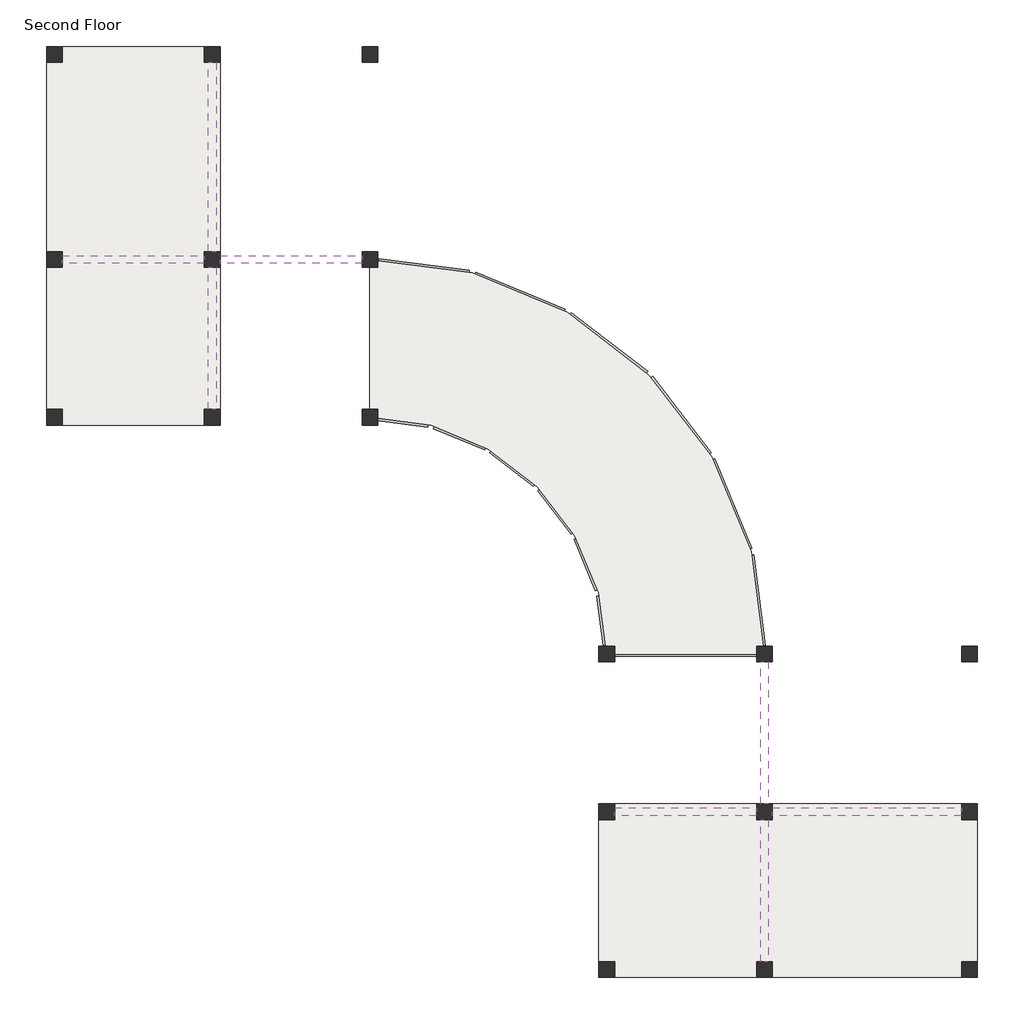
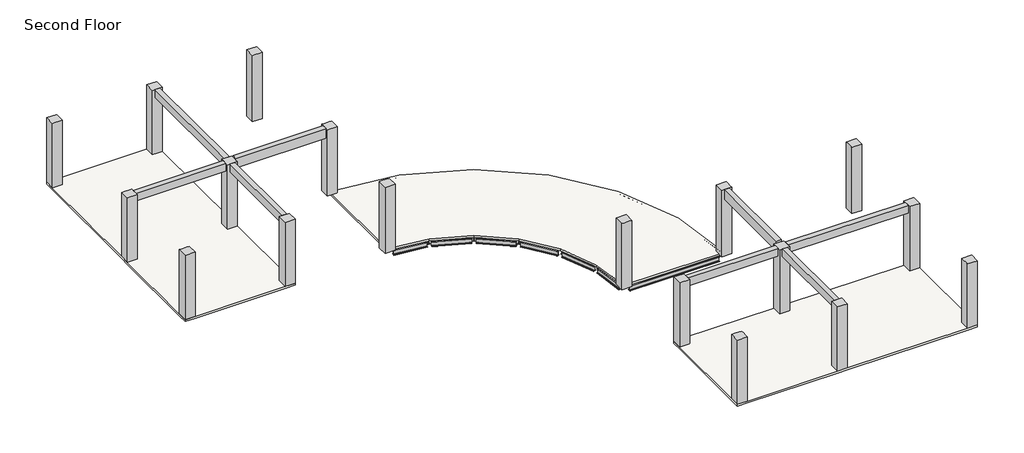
# One storey: 26 beams, 18 columns, 3 slabs.
"""IFC4 building model written with IfcOpenShell, lengths in millimetres."""

from ifc_helpers import new_model, si_unit, frame, origin, place, context, project, spatial, polyline, outline, extrude, faceted_brep, transform, mapped, element, save
from components import w_wide_flange_w12x26_1e533bcd, w_wide_flange_w12x26_3565986b, w_wide_flange_w12x26_dd29c176, w_wide_flange_w12x26_81ca8151, w_wide_flange_w12x26_da9b0925, w_wide_flange_w12x26_462c3e25, w_wide_flange_w12x26_ec7660bb, w_wide_flange_w12x26_07b850c1, w_wide_flange_w12x26_dceb5f91

model = new_model("IFC4")

# Units and contexts
model_context = context("Model", 3, world=origin())
ifc_project = project(units=[si_unit("LENGTHUNIT", "METRE", prefix="MILLI")], contexts=[model_context])

# Site, building, storey
site = spatial("IfcSite", under=ifc_project)
building = spatial("IfcBuilding", under=site)
storey = spatial("IfcBuildingStorey", under=building, Name="Second Floor", Elevation=3048.0)

# Beams
placement = place(None, origin())
element("IfcBeam", 1, ObjectType="Concrete-Rectangular Beam : 12 x 24", at=placement, inside=storey, context=model_context, shape_type="SweptSolid", body=[
    extrude(outline(polyline([(-34903.4783408, 12122.2963551), (-34598.6783408, 12122.2963551), (-34598.6783408, 4807.0963551), (-34903.4783408, 4807.0963551), (-34903.4783408, 12122.2963551)])), frame((0.0, 0.0, 6705.6), z_axis=(0.0, 0.0, 1.0), x_axis=(1.0, 0.0, 0.0)), (0.0, 0.0, 1.0), 488.95),
])
element("IfcBeam", 2, ObjectType="Concrete-Rectangular Beam : 12 x 24", at=placement, inside=storey, context=model_context, shape_type="SweptSolid", body=[
    extrude(outline(polyline([(-34903.4783408, 4197.4963551), (-34598.6783408, 4197.4963551), (-34598.6783408, -1288.9036449), (-34903.4783408, -1288.9036449), (-34903.4783408, 4197.4963551)])), frame((0.0, 0.0, 6705.6), z_axis=(0.0, 0.0, 1.0), x_axis=(1.0, 0.0, 0.0)), (0.0, 0.0, 1.0), 488.95),
])
element("IfcBeam", 3, ObjectType="Concrete-Rectangular Beam : 12 x 24", at=placement, inside=storey, context=model_context, shape_type="SweptSolid", body=[
    extrude(outline(polyline([(-35055.8783408, 4654.6963551), (-35055.8783408, 4349.8963551), (-40542.2783408, 4349.8963551), (-40542.2783408, 4654.6963551), (-35055.8783408, 4654.6963551)])), frame((0.0, 0.0, 6705.6), z_axis=(0.0, 0.0, 1.0), x_axis=(1.0, 0.0, 0.0)), (0.0, 0.0, 1.0), 488.95),
])
element("IfcBeam", 4, ObjectType="Concrete-Rectangular Beam : 12 x 24", at=placement, inside=storey, context=model_context, shape_type="SweptSolid", body=[
    extrude(outline(polyline([(-34446.2783408, 4349.8963551), (-34446.2783408, 4654.6963551), (-28959.8783408, 4654.6963551), (-28959.8783408, 4349.8963551), (-34446.2783408, 4349.8963551)])), frame((0.0, 0.0, 6705.6), z_axis=(0.0, 0.0, 1.0), x_axis=(1.0, 0.0, 0.0)), (0.0, 0.0, 1.0), 609.6),
])
element("IfcBeam", 5, ObjectType="Concrete-Rectangular Beam : 12 x 24", at=placement, inside=storey, context=model_context, shape_type="SweptSolid", body=[
    extrude(outline(polyline([(-5795.0783408, -16681.3036449), (-5795.0783408, -16986.1036449), (-13110.2783408, -16986.1036449), (-13110.2783408, -16681.3036449), (-5795.0783408, -16681.3036449)])), frame((0.0, 0.0, 6705.6), z_axis=(0.0, 0.0, 1.0), x_axis=(1.0, 0.0, 0.0)), (0.0, 0.0, 1.0), 488.95),
])
element("IfcBeam", 6, ObjectType="Concrete-Rectangular Beam : 12 x 24", at=placement, inside=storey, context=model_context, shape_type="SweptSolid", body=[
    extrude(outline(polyline([(-13719.8783408, -16681.3036449), (-13719.8783408, -16986.1036449), (-19206.2783408, -16986.1036449), (-19206.2783408, -16681.3036449), (-13719.8783408, -16681.3036449)])), frame((0.0, 0.0, 6705.6), z_axis=(0.0, 0.0, 1.0), x_axis=(1.0, 0.0, 0.0)), (0.0, 0.0, 1.0), 488.95),
])
element("IfcBeam", 7, ObjectType="Concrete-Rectangular Beam : 12 x 24", at=placement, inside=storey, context=model_context, shape_type="SweptSolid", body=[
    extrude(outline(polyline([(-13567.4783408, -17138.5036449), (-13262.6783408, -17138.5036449), (-13262.6783408, -22624.9036449), (-13567.4783408, -22624.9036449), (-13567.4783408, -17138.5036449)])), frame((0.0, 0.0, 6705.6), z_axis=(0.0, 0.0, 1.0), x_axis=(1.0, 0.0, 0.0)), (0.0, 0.0, 1.0), 488.95),
])
element("IfcBeam", 8, ObjectType="Concrete-Rectangular Beam : 12 x 24", at=placement, inside=storey, context=model_context, shape_type="SweptSolid", body=[
    extrude(outline(polyline([(-13262.6783408, -16528.9036449), (-13567.4783408, -16528.9036449), (-13567.4783408, -11042.5036449), (-13262.6783408, -11042.5036449), (-13262.6783408, -16528.9036449)])), frame((0.0, 0.0, 6705.6), z_axis=(0.0, 0.0, 1.0), x_axis=(1.0, 0.0, 0.0)), (0.0, 0.0, 1.0), 609.6),
])
w_wide_flange_w12x26_shape = w_wide_flange_w12x26_1e533bcd(model_context)
element("IfcBeam", 9, ObjectType="W-Wide Flange : W12X26", at=placement, inside=storey, context=model_context, shape_type="MappedRepresentation", body=[
    mapped(w_wide_flange_w12x26_shape, transform((-26682.8772171, 4242.6511514, 2765.821875), x_axis=(0.991444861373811, -0.13052619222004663, 0.0), y_axis=(0.13052619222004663, 0.991444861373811, 0.0), z_axis=(0.0, 0.0, 1.0))),
])
w_wide_flange_w12x26_2_shape = w_wide_flange_w12x26_3565986b(model_context)
element("IfcBeam", 10, ObjectType="W-Wide Flange : W12X26", at=placement, inside=storey, context=model_context, shape_type="MappedRepresentation", body=[
    mapped(w_wide_flange_w12x26_2_shape, transform((-22872.8772171, 3221.7647282, 2765.821875), x_axis=(0.923879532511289, -0.3826834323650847, 0.0), y_axis=(0.3826834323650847, 0.923879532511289, 0.0), z_axis=(0.0, 0.0, 1.0))),
])
element("IfcBeam", 11, ObjectType="W-Wide Flange : W12X26", at=placement, inside=storey, context=model_context, shape_type="MappedRepresentation", body=[
    mapped(w_wide_flange_w12x26_2_shape, transform((-19456.9246682, 1249.5636046, 2765.821875), x_axis=(0.7933533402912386, -0.6087614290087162, 0.0), y_axis=(0.6087614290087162, 0.7933533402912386, 0.0), z_axis=(0.0, 0.0, 1.0))),
])
element("IfcBeam", 12, ObjectType="W-Wide Flange : W12X26", at=placement, inside=storey, context=model_context, shape_type="MappedRepresentation", body=[
    mapped(w_wide_flange_w12x26_2_shape, transform((-16667.8110913, -1539.5499723, 2765.821875), x_axis=(0.6087614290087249, -0.7933533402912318, 0.0), y_axis=(0.7933533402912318, 0.6087614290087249, 0.0), z_axis=(0.0, 0.0, 1.0))),
])
element("IfcBeam", 13, ObjectType="W-Wide Flange : W12X26", at=placement, inside=storey, context=model_context, shape_type="MappedRepresentation", body=[
    mapped(w_wide_flange_w12x26_2_shape, transform((-14695.6099677, -4955.5025212, 2765.821875), x_axis=(0.3826834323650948, -0.9238795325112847, 0.0), y_axis=(0.9238795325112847, 0.3826834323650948, 0.0), z_axis=(0.0, 0.0, 1.0))),
])
w_wide_flange_w12x26_3_shape = w_wide_flange_w12x26_dd29c176(model_context)
element("IfcBeam", 14, ObjectType="W-Wide Flange : W12X26", at=placement, inside=storey, context=model_context, shape_type="MappedRepresentation", body=[
    mapped(w_wide_flange_w12x26_3_shape, transform((-25185.7576666, -2362.022621, 2765.821875), x_axis=(0.9238795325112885, -0.3826834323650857, 0.0), y_axis=(0.3826834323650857, 0.9238795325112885, 0.0), z_axis=(0.0, 0.0, 1.0))),
])
element("IfcBeam", 15, ObjectType="W-Wide Flange : W12X26", at=placement, inside=storey, context=model_context, shape_type="MappedRepresentation", body=[
    mapped(w_wide_flange_w12x26_3_shape, transform((-23136.1861372, -3545.3432952, 2765.821875), x_axis=(0.793353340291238, -0.6087614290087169, 0.0), y_axis=(0.6087614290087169, 0.793353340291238, 0.0), z_axis=(0.0, 0.0, 1.0))),
])
element("IfcBeam", 16, ObjectType="W-Wide Flange : W12X26", at=placement, inside=storey, context=model_context, shape_type="MappedRepresentation", body=[
    mapped(w_wide_flange_w12x26_3_shape, transform((-21462.7179911, -5218.8114413, 2765.821875), x_axis=(0.6087614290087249, -0.793353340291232, 0.0), y_axis=(0.793353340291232, 0.6087614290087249, 0.0), z_axis=(0.0, 0.0, 1.0))),
])
element("IfcBeam", 17, ObjectType="W-Wide Flange : W12X26", at=placement, inside=storey, context=model_context, shape_type="MappedRepresentation", body=[
    mapped(w_wide_flange_w12x26_3_shape, transform((-20279.3973169, -7268.3829707, 2765.821875), x_axis=(0.3826834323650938, -0.9238795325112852, 0.0), y_axis=(0.9238795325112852, 0.3826834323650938, 0.0), z_axis=(0.0, 0.0, 1.0))),
])
w_wide_flange_w12x26_4_shape = w_wide_flange_w12x26_81ca8151(model_context)
element("IfcBeam", 18, ObjectType="W-Wide Flange : W12X26", at=placement, inside=storey, context=model_context, shape_type="MappedRepresentation", body=[
    mapped(w_wide_flange_w12x26_4_shape, transform((-13674.7235445, -8765.5025212, 2765.821875), x_axis=(0.13052619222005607, -0.9914448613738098, 0.0), y_axis=(0.9914448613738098, 0.13052619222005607, 0.0), z_axis=(0.0, 0.0, 1.0))),
])
w_wide_flange_w12x26_5_shape = w_wide_flange_w12x26_da9b0925(model_context)
element("IfcBeam", 19, ObjectType="W-Wide Flange : W12X26", at=placement, inside=storey, context=model_context, shape_type="MappedRepresentation", body=[
    mapped(w_wide_flange_w12x26_5_shape, transform((-27471.7576666, -1749.4907671, 2765.821875), x_axis=(0.9914448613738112, -0.1305261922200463, 0.0), y_axis=(0.1305261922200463, 0.9914448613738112, 0.0), z_axis=(0.0, 0.0, 1.0))),
])
w_wide_flange_w12x26_6_shape = w_wide_flange_w12x26_462c3e25(model_context)
element("IfcBeam", 20, ObjectType="W-Wide Flange : W12X26", at=placement, inside=storey, context=model_context, shape_type="MappedRepresentation", body=[
    mapped(w_wide_flange_w12x26_6_shape, transform((-19666.865463, -9554.3829707, 2765.821875), x_axis=(0.13052619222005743, -0.9914448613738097, 0.0), y_axis=(0.9914448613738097, 0.13052619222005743, 0.0), z_axis=(0.0, 0.0, 1.0))),
])
w_wide_flange_w12x26_7_shape = w_wide_flange_w12x26_ec7660bb(model_context)
element("IfcBeam", 21, ObjectType="W-Wide Flange : W12X26", at=placement, inside=storey, context=model_context, shape_type="MappedRepresentation", body=[
    mapped(w_wide_flange_w12x26_7_shape, transform((-25483.5645084, 1098.5471145, 2765.821875), x_axis=(-0.25881904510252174, -0.9659258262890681, 0.0), y_axis=(0.9659258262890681, -0.25881904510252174, 0.0), z_axis=(0.0, 0.0, 1.0))),
])
w_wide_flange_w12x26_8_shape = w_wide_flange_w12x26_07b850c1(model_context)
element("IfcBeam", 22, ObjectType="W-Wide Flange : W12X26", at=placement, inside=storey, context=model_context, shape_type="MappedRepresentation", body=[
    mapped(w_wide_flange_w12x26_8_shape, transform((-22559.0783408, -179.121922, 2765.821875), x_axis=(0.5000000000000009, 0.8660254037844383, 0.0), y_axis=(-0.8660254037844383, 0.5000000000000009, 0.0), z_axis=(0.0, 0.0, 1.0))),
])
element("IfcBeam", 23, ObjectType="W-Wide Flange : W12X26", at=placement, inside=storey, context=model_context, shape_type="MappedRepresentation", body=[
    mapped(w_wide_flange_w12x26_8_shape, transform((-20034.0324646, -2116.6577687, 2765.821875), x_axis=(0.7071067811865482, 0.7071067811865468, 0.0), y_axis=(-0.7071067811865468, 0.7071067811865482, 0.0), z_axis=(0.0, 0.0, 1.0))),
])
element("IfcBeam", 24, ObjectType="W-Wide Flange : W12X26", at=placement, inside=storey, context=model_context, shape_type="MappedRepresentation", body=[
    mapped(w_wide_flange_w12x26_8_shape, transform((-18096.4966179, -4641.7036449, 2765.821875), x_axis=(0.866025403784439, 0.4999999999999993, 0.0), y_axis=(-0.4999999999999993, 0.866025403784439, 0.0), z_axis=(0.0, 0.0, 1.0))),
])
element("IfcBeam", 25, ObjectType="W-Wide Flange : W12X26", at=placement, inside=storey, context=model_context, shape_type="MappedRepresentation", body=[
    mapped(w_wide_flange_w12x26_8_shape, transform((-16878.5106667, -7582.181847, 2765.821875), x_axis=(0.9659258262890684, 0.25881904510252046, 0.0), y_axis=(-0.25881904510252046, 0.9659258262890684, 0.0), z_axis=(0.0, 0.0, 1.0))),
])
w_wide_flange_w12x26_9_shape = w_wide_flange_w12x26_dceb5f91(model_context)
element("IfcBeam", 26, ObjectType="W-Wide Flange : W12X26", at=placement, inside=storey, context=model_context, shape_type="MappedRepresentation", body=[
    mapped(w_wide_flange_w12x26_9_shape, transform((-16463.0783408, -10737.7036449, 2765.821875), x_axis=(1.0, 0.0, 0.0), y_axis=(0.0, 1.0, 0.0), z_axis=(0.0, 0.0, 1.0))),
])

# Columns
element("IfcColumn", 27, ObjectType="Concrete-Rectangular-Column : 24 x 24", at=placement, inside=storey, context=model_context, shape_type="Brep", body=[
    faceted_brep([(-35055.8783408, -1898.5036449, 3048.0), (-35055.8783408, -1288.9036449, 3048.0), (-34446.2783408, -1288.9036449, 3048.0), (-34446.2783408, -1898.5036449, 3048.0), (-35055.8783408, -1898.5036449, 7194.55), (-35055.8783408, -1746.1036449, 7194.55), (-35055.8783408, -1441.3036449, 7194.55), (-35055.8783408, -1288.9036449, 7194.55), (-34446.2783408, -1288.9036449, 7194.55), (-34446.2783408, -1898.5036449, 7194.55)], [[[0, 1, 2, 3]], [[1, 0, 4, 5, 6, 7]], [[2, 1, 7, 8]], [[3, 2, 8, 9]], [[0, 3, 9, 4]], [[7, 6, 5, 4, 9, 8]]]),
])
element("IfcColumn", 28, ObjectType="Concrete-Rectangular-Column : 24 x 24", at=placement, inside=storey, context=model_context, shape_type="Brep", body=[
    faceted_brep([(-41151.8783408, -1898.5036449, 3048.0), (-41151.8783408, -1288.9036449, 3048.0), (-40542.2783408, -1288.9036449, 3048.0), (-40542.2783408, -1898.5036449, 3048.0), (-41151.8783408, -1898.5036449, 7194.55), (-41151.8783408, -1288.9036449, 7194.55), (-40999.4783408, -1288.9036449, 7194.55), (-40694.6783408, -1288.9036449, 7194.55), (-40542.2783408, -1288.9036449, 7194.55), (-40542.2783408, -1441.3036449, 7194.55), (-40542.2783408, -1746.1036449, 7194.55), (-40542.2783408, -1898.5036449, 7194.55)], [[[0, 1, 2, 3]], [[1, 0, 4, 5]], [[2, 1, 5, 6, 7, 8]], [[3, 2, 8, 9, 10, 11]], [[0, 3, 11, 4]], [[5, 4, 11, 10, 9, 8, 7, 6]]]),
])
element("IfcColumn", 29, ObjectType="Concrete-Rectangular-Column : 24 x 24", at=placement, inside=storey, context=model_context, shape_type="SweptSolid", body=[
    extrude(outline(polyline([(-35055.8783408, 4197.4963551), (-35055.8783408, 4807.0963551), (-34446.2783408, 4807.0963551), (-34446.2783408, 4197.4963551), (-35055.8783408, 4197.4963551)])), frame((0.0, 0.0, 3048.0), z_axis=(0.0, 0.0, 1.0), x_axis=(1.0, 0.0, 0.0)), (0.0, 0.0, 1.0), 4146.55),
])
element("IfcColumn", 30, ObjectType="Concrete-Rectangular-Column : 24 x 24", at=placement, inside=storey, context=model_context, shape_type="Brep", body=[
    faceted_brep([(-41151.8783408, 4197.4963551, 3048.0), (-41151.8783408, 4807.0963551, 3048.0), (-40542.2783408, 4807.0963551, 3048.0), (-40542.2783408, 4197.4963551, 3048.0), (-41151.8783408, 4197.4963551, 7194.55), (-41151.8783408, 4807.0963551, 7194.55), (-40999.4783408, 4807.0963551, 7194.55), (-40694.6783408, 4807.0963551, 7194.55), (-40542.2783408, 4807.0963551, 7194.55), (-40542.2783408, 4197.4963551, 7194.55), (-40694.6783408, 4197.4963551, 7194.55), (-40999.4783408, 4197.4963551, 7194.55)], [[[0, 1, 2, 3]], [[1, 0, 4, 5]], [[2, 1, 5, 6, 7, 8]], [[3, 2, 8, 9]], [[0, 3, 9, 10, 11, 4]], [[5, 4, 11, 10, 9, 8, 7, 6]]]),
])
element("IfcColumn", 31, ObjectType="Concrete-Rectangular-Column : 24 x 24", at=placement, inside=storey, context=model_context, shape_type="SweptSolid", body=[
    extrude(outline(polyline([(-35055.8783408, 12122.2963551), (-35055.8783408, 12731.8963551), (-34446.2783408, 12731.8963551), (-34446.2783408, 12122.2963551), (-35055.8783408, 12122.2963551)])), frame((0.0, 0.0, 3048.0), z_axis=(0.0, 0.0, 1.0), x_axis=(1.0, 0.0, 0.0)), (0.0, 0.0, 1.0), 4146.55),
])
element("IfcColumn", 32, ObjectType="Concrete-Rectangular-Column : 24 x 24", at=placement, inside=storey, context=model_context, shape_type="Brep", body=[
    faceted_brep([(-41151.8783408, 12122.2963551, 3048.0), (-41151.8783408, 12731.8963551, 3048.0), (-40542.2783408, 12731.8963551, 3048.0), (-40542.2783408, 12122.2963551, 3048.0), (-41151.8783408, 12122.2963551, 7194.55), (-41151.8783408, 12731.8963551, 7194.55), (-40542.2783408, 12731.8963551, 7194.55), (-40542.2783408, 12122.2963551, 7194.55), (-40694.6783408, 12122.2963551, 7194.55), (-40999.4783408, 12122.2963551, 7194.55)], [[[0, 1, 2, 3]], [[1, 0, 4, 5]], [[2, 1, 5, 6]], [[3, 2, 6, 7]], [[0, 3, 7, 8, 9, 4]], [[5, 4, 9, 8, 7, 6]]]),
])
element("IfcColumn", 33, ObjectType="Concrete-Rectangular-Column : 24 x 24", at=placement, inside=storey, context=model_context, shape_type="Brep", body=[
    faceted_brep([(-28959.8783408, 4197.4963551, 3048.0), (-28959.8783408, 4807.0963551, 3048.0), (-28350.2783408, 4807.0963551, 3048.0), (-28350.2783408, 4197.4963551, 3048.0), (-28959.8783408, 4197.4963551, 7315.2), (-28959.8783408, 4807.0963551, 7315.2), (-28807.4783408, 4807.0963551, 7315.2), (-28502.6783408, 4807.0963551, 7315.2), (-28350.2783408, 4807.0963551, 7315.2), (-28350.2783408, 4197.4963551, 7315.2), (-28502.6783408, 4197.4963551, 7315.2), (-28807.4783408, 4197.4963551, 7315.2)], [[[0, 1, 2, 3]], [[4, 5, 1, 0]], [[5, 6, 7, 8, 2, 1]], [[8, 9, 3, 2]], [[9, 10, 11, 4, 0, 3]], [[4, 11, 10, 9, 8, 7, 6, 5]]]),
])
element("IfcColumn", 34, ObjectType="Concrete-Rectangular-Column : 24 x 24", at=placement, inside=storey, context=model_context, shape_type="Brep", body=[
    faceted_brep([(-28959.8783408, -1898.5036449, 3048.0), (-28959.8783408, -1288.9036449, 3048.0), (-28350.2783408, -1288.9036449, 3048.0), (-28350.2783408, -1898.5036449, 3048.0), (-28959.8783408, -1898.5036449, 7315.2), (-28959.8783408, -1746.1036449, 7315.2), (-28959.8783408, -1441.3036449, 7315.2), (-28959.8783408, -1288.9036449, 7315.2), (-28807.4783408, -1288.9036449, 7315.2), (-28502.6783408, -1288.9036449, 7315.2), (-28350.2783408, -1288.9036449, 7315.2), (-28350.2783408, -1898.5036449, 7315.2)], [[[0, 1, 2, 3]], [[4, 5, 6, 7, 1, 0]], [[7, 8, 9, 10, 2, 1]], [[10, 11, 3, 2]], [[11, 4, 0, 3]], [[4, 11, 10, 9, 8, 7, 6, 5]]]),
])
element("IfcColumn", 35, ObjectType="Concrete-Rectangular-Column : 24 x 24", at=placement, inside=storey, context=model_context, shape_type="Brep", body=[
    faceted_brep([(-28959.8783408, 12122.2963551, 3048.0), (-28959.8783408, 12731.8963551, 3048.0), (-28350.2783408, 12731.8963551, 3048.0), (-28350.2783408, 12122.2963551, 3048.0), (-28959.8783408, 12122.2963551, 7315.2), (-28959.8783408, 12274.6963551, 7315.2), (-28959.8783408, 12579.4963551, 7315.2), (-28959.8783408, 12731.8963551, 7315.2), (-28350.2783408, 12731.8963551, 7315.2), (-28350.2783408, 12122.2963551, 7315.2), (-28502.6783408, 12122.2963551, 7315.2), (-28807.4783408, 12122.2963551, 7315.2)], [[[0, 1, 2, 3]], [[4, 5, 6, 7, 1, 0]], [[7, 8, 2, 1]], [[8, 9, 3, 2]], [[9, 10, 11, 4, 0, 3]], [[4, 11, 10, 9, 8, 7, 6, 5]]]),
])
element("IfcColumn", 36, ObjectType="Concrete-Rectangular-Column : 24 x 24", at=placement, inside=storey, context=model_context, shape_type="Brep", body=[
    faceted_brep([(-19206.2783408, -17138.5036449, 3048.0), (-19815.8783408, -17138.5036449, 3048.0), (-19815.8783408, -16528.9036449, 3048.0), (-19206.2783408, -16528.9036449, 3048.0), (-19206.2783408, -17138.5036449, 7194.55), (-19358.6783408, -17138.5036449, 7194.55), (-19663.4783408, -17138.5036449, 7194.55), (-19815.8783408, -17138.5036449, 7194.55), (-19206.2783408, -16528.9036449, 7194.55), (-19815.8783408, -16528.9036449, 7194.55)], [[[0, 1, 2, 3]], [[1, 0, 4, 5, 6, 7]], [[0, 3, 8, 4]], [[3, 2, 9, 8]], [[2, 1, 7, 9]], [[7, 6, 5, 4, 8, 9]]]),
])
element("IfcColumn", 37, ObjectType="Concrete-Rectangular-Column : 24 x 24", at=placement, inside=storey, context=model_context, shape_type="Brep", body=[
    faceted_brep([(-19206.2783408, -23234.5036449, 3048.0), (-19815.8783408, -23234.5036449, 3048.0), (-19815.8783408, -22624.9036449, 3048.0), (-19206.2783408, -22624.9036449, 3048.0), (-19206.2783408, -23234.5036449, 7194.55), (-19815.8783408, -23234.5036449, 7194.55), (-19206.2783408, -22624.9036449, 7194.55), (-19206.2783408, -22777.3036449, 7194.55), (-19206.2783408, -23082.1036449, 7194.55), (-19815.8783408, -22624.9036449, 7194.55), (-19663.4783408, -22624.9036449, 7194.55), (-19358.6783408, -22624.9036449, 7194.55)], [[[0, 1, 2, 3]], [[1, 0, 4, 5]], [[0, 3, 6, 7, 8, 4]], [[3, 2, 9, 10, 11, 6]], [[2, 1, 5, 9]], [[5, 4, 8, 7, 6, 11, 10, 9]]]),
])
element("IfcColumn", 38, ObjectType="Concrete-Rectangular-Column : 24 x 24", at=placement, inside=storey, context=model_context, shape_type="SweptSolid", body=[
    extrude(outline(polyline([(-13110.2783408, -17138.5036449), (-13719.8783408, -17138.5036449), (-13719.8783408, -16528.9036449), (-13110.2783408, -16528.9036449), (-13110.2783408, -17138.5036449)])), frame((0.0, 0.0, 3048.0), z_axis=(0.0, 0.0, 1.0), x_axis=(1.0, 0.0, 0.0)), (0.0, 0.0, 1.0), 4146.55),
])
element("IfcColumn", 39, ObjectType="Concrete-Rectangular-Column : 24 x 24", at=placement, inside=storey, context=model_context, shape_type="Brep", body=[
    faceted_brep([(-13110.2783408, -23234.5036449, 3048.0), (-13719.8783408, -23234.5036449, 3048.0), (-13719.8783408, -22624.9036449, 3048.0), (-13110.2783408, -22624.9036449, 3048.0), (-13110.2783408, -23234.5036449, 7194.55), (-13719.8783408, -23234.5036449, 7194.55), (-13110.2783408, -22624.9036449, 7194.55), (-13110.2783408, -22777.3036449, 7194.55), (-13110.2783408, -23082.1036449, 7194.55), (-13719.8783408, -22624.9036449, 7194.55), (-13719.8783408, -23082.1036449, 7194.55), (-13719.8783408, -22777.3036449, 7194.55)], [[[0, 1, 2, 3]], [[1, 0, 4, 5]], [[0, 3, 6, 7, 8, 4]], [[3, 2, 9, 6]], [[2, 1, 5, 10, 11, 9]], [[5, 4, 8, 7, 6, 9, 11, 10]]]),
])
element("IfcColumn", 40, ObjectType="Concrete-Rectangular-Column : 24 x 24", at=placement, inside=storey, context=model_context, shape_type="SweptSolid", body=[
    extrude(outline(polyline([(-5185.4783408, -17138.5036449), (-5795.0783408, -17138.5036449), (-5795.0783408, -16528.9036449), (-5185.4783408, -16528.9036449), (-5185.4783408, -17138.5036449)])), frame((0.0, 0.0, 3048.0), z_axis=(0.0, 0.0, 1.0), x_axis=(1.0, 0.0, 0.0)), (0.0, 0.0, 1.0), 4146.55),
])
element("IfcColumn", 41, ObjectType="Concrete-Rectangular-Column : 24 x 24", at=placement, inside=storey, context=model_context, shape_type="Brep", body=[
    faceted_brep([(-5185.4783408, -23234.5036449, 3048.0), (-5795.0783408, -23234.5036449, 3048.0), (-5795.0783408, -22624.9036449, 3048.0), (-5185.4783408, -22624.9036449, 3048.0), (-5185.4783408, -23234.5036449, 7194.55), (-5795.0783408, -23234.5036449, 7194.55), (-5185.4783408, -22624.9036449, 7194.55), (-5795.0783408, -22624.9036449, 7194.55), (-5795.0783408, -23082.1036449, 7194.55), (-5795.0783408, -22777.3036449, 7194.55)], [[[0, 1, 2, 3]], [[1, 0, 4, 5]], [[0, 3, 6, 4]], [[3, 2, 7, 6]], [[2, 1, 5, 8, 9, 7]], [[5, 4, 6, 7, 9, 8]]]),
])
element("IfcColumn", 42, ObjectType="Concrete-Rectangular-Column : 24 x 24", at=placement, inside=storey, context=model_context, shape_type="Brep", body=[
    faceted_brep([(-13719.8783408, -11042.5036449, 3048.0), (-13719.8783408, -10432.9036449, 3048.0), (-13110.2783408, -10432.9036449, 3048.0), (-13110.2783408, -11042.5036449, 3048.0), (-13719.8783408, -11042.5036449, 7315.2), (-13110.2783408, -11042.5036449, 7315.2), (-13110.2783408, -10432.9036449, 7315.2), (-13110.2783408, -10585.3036449, 7315.2), (-13110.2783408, -10890.1036449, 7315.2), (-13719.8783408, -10432.9036449, 7315.2), (-13719.8783408, -10890.1036449, 7315.2), (-13719.8783408, -10585.3036449, 7315.2)], [[[0, 1, 2, 3]], [[4, 0, 3, 5]], [[5, 3, 2, 6, 7, 8]], [[6, 2, 1, 9]], [[9, 1, 0, 4, 10, 11]], [[4, 5, 8, 7, 6, 9, 11, 10]]]),
])
element("IfcColumn", 43, ObjectType="Concrete-Rectangular-Column : 24 x 24", at=placement, inside=storey, context=model_context, shape_type="Brep", body=[
    faceted_brep([(-19815.8783408, -11042.5036449, 3048.0), (-19815.8783408, -10432.9036449, 3048.0), (-19206.2783408, -10432.9036449, 3048.0), (-19206.2783408, -11042.5036449, 3048.0), (-19815.8783408, -11042.5036449, 7315.2), (-19206.2783408, -11042.5036449, 7315.2), (-19358.6783408, -11042.5036449, 7315.2), (-19663.4783408, -11042.5036449, 7315.2), (-19206.2783408, -10432.9036449, 7315.2), (-19206.2783408, -10585.3036449, 7315.2), (-19206.2783408, -10890.1036449, 7315.2), (-19815.8783408, -10432.9036449, 7315.2)], [[[0, 1, 2, 3]], [[4, 0, 3, 5, 6, 7]], [[5, 3, 2, 8, 9, 10]], [[8, 2, 1, 11]], [[11, 1, 0, 4]], [[4, 7, 6, 5, 10, 9, 8, 11]]]),
])
element("IfcColumn", 44, ObjectType="Concrete-Rectangular-Column : 24 x 24", at=placement, inside=storey, context=model_context, shape_type="Brep", body=[
    faceted_brep([(-5795.0783408, -11042.5036449, 3048.0), (-5795.0783408, -10432.9036449, 3048.0), (-5185.4783408, -10432.9036449, 3048.0), (-5185.4783408, -11042.5036449, 3048.0), (-5795.0783408, -11042.5036449, 7315.2), (-5185.4783408, -11042.5036449, 7315.2), (-5337.8783408, -11042.5036449, 7315.2), (-5642.6783408, -11042.5036449, 7315.2), (-5185.4783408, -10432.9036449, 7315.2), (-5795.0783408, -10432.9036449, 7315.2), (-5795.0783408, -10890.1036449, 7315.2), (-5795.0783408, -10585.3036449, 7315.2)], [[[0, 1, 2, 3]], [[4, 0, 3, 5, 6, 7]], [[5, 3, 2, 8]], [[8, 2, 1, 9]], [[9, 1, 0, 4, 10, 11]], [[4, 7, 6, 5, 8, 9, 11, 10]]]),
])

# Slabs
element("IfcSlab", 45, ObjectType="3\" LW Concrete on 2\" Metal Deck", at=placement, inside=storey, context=model_context, shape_type="Brep", body=[
    faceted_brep([(-26288.4369924, -1905.2778893, 2921.0), (-28350.2783408, -1633.8313262, 2921.0), (-28655.0783408, -1593.7036449, 2921.0), (-28655.0783408, -1288.9036449, 2921.0), (-28655.0783408, 4197.4963551, 2921.0), (-28655.0783408, 4502.2963551, 2921.0), (-28350.2783408, 4462.1686738, 2921.0), (-24710.6760935, 3983.0059477, 2921.0), (-21035.0783408, 2460.5235088, 2921.0), (-17878.7709955, 38.6037004, 2921.0), (-15456.8511871, -3117.7036449, 2921.0), (-13934.3687482, -6793.3013975, 2921.0), (-13455.2060221, -10432.9036449, 2921.0), (-13415.0783408, -10737.7036449, 2921.0), (-13719.8783408, -10737.7036449, 2921.0), (-19206.2783408, -10737.7036449, 2921.0), (-19511.0783408, -10737.7036449, 2921.0), (-19551.2060221, -10432.9036449, 2921.0), (-19822.6525852, -8371.0622965, 2921.0), (-20736.1420486, -6165.7036449, 2921.0), (-22189.2939336, -4271.9192377, 2921.0), (-24083.0783408, -2818.7673527, 2921.0), (-26288.4369924, -1905.2778893, 3048.0), (-24083.0783408, -2818.7673527, 3048.0), (-22189.2939336, -4271.9192377, 3048.0), (-20736.1420486, -6165.7036449, 3048.0), (-19822.6525852, -8371.0622965, 3048.0), (-19551.2060221, -10432.9036449, 3048.0), (-19511.0783408, -10737.7036449, 3048.0), (-19206.2783408, -10737.7036449, 3048.0), (-13719.8783408, -10737.7036449, 3048.0), (-13415.0783408, -10737.7036449, 3048.0), (-13455.2060221, -10432.9036449, 3048.0), (-13934.3687482, -6793.3013975, 3048.0), (-15456.8511871, -3117.7036449, 3048.0), (-17878.7709955, 38.6037004, 3048.0), (-21035.0783408, 2460.5235088, 3048.0), (-24710.6760935, 3983.0059477, 3048.0), (-28350.2783408, 4462.1686738, 3048.0), (-28655.0783408, 4502.2963551, 3048.0), (-28655.0783408, 4197.4963551, 3048.0), (-28655.0783408, -1288.9036449, 3048.0), (-28655.0783408, -1593.7036449, 3048.0), (-28350.2783408, -1633.8313262, 3048.0)], [[[0, 1, 2, 3, 4, 5, 6, 7, 8, 9, 10, 11, 12, 13, 14, 15, 16, 17, 18, 19, 20, 21]], [[22, 23, 24, 25, 26, 27, 28, 29, 30, 31, 32, 33, 34, 35, 36, 37, 38, 39, 40, 41, 42, 43]], [[2, 1, 0, 22, 43, 42]], [[5, 4, 3, 2, 42, 41, 40, 39]], [[7, 6, 5, 39, 38, 37]], [[8, 7, 37, 36]], [[9, 8, 36, 35]], [[10, 9, 35, 34]], [[11, 10, 34, 33]], [[13, 12, 11, 33, 32, 31]], [[16, 15, 14, 13, 31, 30, 29, 28]], [[18, 17, 16, 28, 27, 26]], [[19, 18, 26, 25]], [[20, 19, 25, 24]], [[21, 20, 24, 23]], [[0, 21, 23, 22]]]),
])
element("IfcSlab", 46, ObjectType="LW Concrete on Metal Deck", at=placement, inside=storey, context=model_context, shape_type="Brep", body=[
    faceted_brep([(-34446.2783408, 12731.8963551, 2927.35), (-34446.2783408, 12122.2963551, 2927.35), (-34446.2783408, 4807.0963551, 2927.35), (-34446.2783408, 4197.4963551, 2927.35), (-34446.2783408, -1288.9036449, 2927.35), (-34446.2783408, -1898.5036449, 2927.35), (-35055.8783408, -1898.5036449, 2927.35), (-40542.2783408, -1898.5036449, 2927.35), (-41151.8783408, -1898.5036449, 2927.35), (-41151.8783408, -1288.9036449, 2927.35), (-41151.8783408, 4197.4963551, 2927.35), (-41151.8783408, 4807.0963551, 2927.35), (-41151.8783408, 12122.2963551, 2927.35), (-41151.8783408, 12731.8963551, 2927.35), (-40542.2783408, 12731.8963551, 2927.35), (-35055.8783408, 12731.8963551, 2927.35), (-34446.2783408, 12731.8963551, 3048.0), (-35055.8783408, 12731.8963551, 3048.0), (-40542.2783408, 12731.8963551, 3048.0), (-41151.8783408, 12731.8963551, 3048.0), (-41151.8783408, 12122.2963551, 3048.0), (-41151.8783408, 4807.0963551, 3048.0), (-41151.8783408, 4197.4963551, 3048.0), (-41151.8783408, -1288.9036449, 3048.0), (-41151.8783408, -1898.5036449, 3048.0), (-40542.2783408, -1898.5036449, 3048.0), (-35055.8783408, -1898.5036449, 3048.0), (-34446.2783408, -1898.5036449, 3048.0), (-34446.2783408, -1746.1036449, 3048.0), (-34446.2783408, -1441.3036449, 3048.0), (-34446.2783408, -1288.9036449, 3048.0), (-34446.2783408, 4197.4963551, 3048.0), (-34446.2783408, 4349.8963551, 3048.0), (-34446.2783408, 4654.6963551, 3048.0), (-34446.2783408, 4807.0963551, 3048.0), (-34446.2783408, 12122.2963551, 3048.0), (-34446.2783408, 12274.6963551, 3048.0), (-34446.2783408, 12579.4963551, 3048.0)], [[[0, 1, 2, 3, 4, 5, 6, 7, 8, 9, 10, 11, 12, 13, 14, 15]], [[16, 17, 18, 19, 20, 21, 22, 23, 24, 25, 26, 27, 28, 29, 30, 31, 32, 33, 34, 35, 36, 37]], [[5, 4, 3, 2, 1, 0, 16, 37, 36, 35, 34, 33, 32, 31, 30, 29, 28, 27]], [[8, 7, 6, 5, 27, 26, 25, 24]], [[13, 12, 11, 10, 9, 8, 24, 23, 22, 21, 20, 19]], [[0, 15, 14, 13, 19, 18, 17, 16]]]),
])
element("IfcSlab", 47, ObjectType="LW Concrete on Metal Deck", at=placement, inside=storey, context=model_context, shape_type="Brep", body=[
    faceted_brep([(-5185.4783408, -16528.9036449, 2927.35), (-5185.4783408, -17138.5036449, 2927.35), (-5185.4783408, -22624.9036449, 2927.35), (-5185.4783408, -23234.5036449, 2927.35), (-5795.0783408, -23234.5036449, 2927.35), (-13110.2783408, -23234.5036449, 2927.35), (-13719.8783408, -23234.5036449, 2927.35), (-19206.2783408, -23234.5036449, 2927.35), (-19815.8783408, -23234.5036449, 2927.35), (-19815.8783408, -22624.9036449, 2927.35), (-19815.8783408, -17138.5036449, 2927.35), (-19815.8783408, -16528.9036449, 2927.35), (-19206.2783408, -16528.9036449, 2927.35), (-13719.8783408, -16528.9036449, 2927.35), (-13110.2783408, -16528.9036449, 2927.35), (-5795.0783408, -16528.9036449, 2927.35), (-5185.4783408, -16528.9036449, 3048.0), (-5337.8783408, -16528.9036449, 3048.0), (-5642.6783408, -16528.9036449, 3048.0), (-5795.0783408, -16528.9036449, 3048.0), (-13110.2783408, -16528.9036449, 3048.0), (-13262.6783408, -16528.9036449, 3048.0), (-13567.4783408, -16528.9036449, 3048.0), (-13719.8783408, -16528.9036449, 3048.0), (-19206.2783408, -16528.9036449, 3048.0), (-19358.6783408, -16528.9036449, 3048.0), (-19663.4783408, -16528.9036449, 3048.0), (-19815.8783408, -16528.9036449, 3048.0), (-19815.8783408, -17138.5036449, 3048.0), (-19815.8783408, -22624.9036449, 3048.0), (-19815.8783408, -23234.5036449, 3048.0), (-19206.2783408, -23234.5036449, 3048.0), (-13719.8783408, -23234.5036449, 3048.0), (-13110.2783408, -23234.5036449, 3048.0), (-5795.0783408, -23234.5036449, 3048.0), (-5185.4783408, -23234.5036449, 3048.0), (-5185.4783408, -22624.9036449, 3048.0), (-5185.4783408, -17138.5036449, 3048.0)], [[[0, 1, 2, 3, 4, 5, 6, 7, 8, 9, 10, 11, 12, 13, 14, 15]], [[16, 17, 18, 19, 20, 21, 22, 23, 24, 25, 26, 27, 28, 29, 30, 31, 32, 33, 34, 35, 36, 37]], [[0, 15, 14, 13, 12, 11, 27, 26, 25, 24, 23, 22, 21, 20, 19, 18, 17, 16]], [[11, 10, 9, 8, 30, 29, 28, 27]], [[8, 7, 6, 5, 4, 3, 35, 34, 33, 32, 31, 30]], [[3, 2, 1, 0, 16, 37, 36, 35]]]),
])

save(model, "model.ifc")
